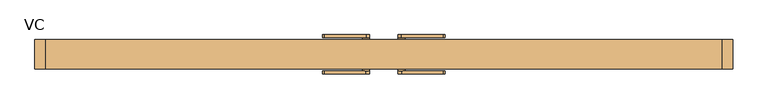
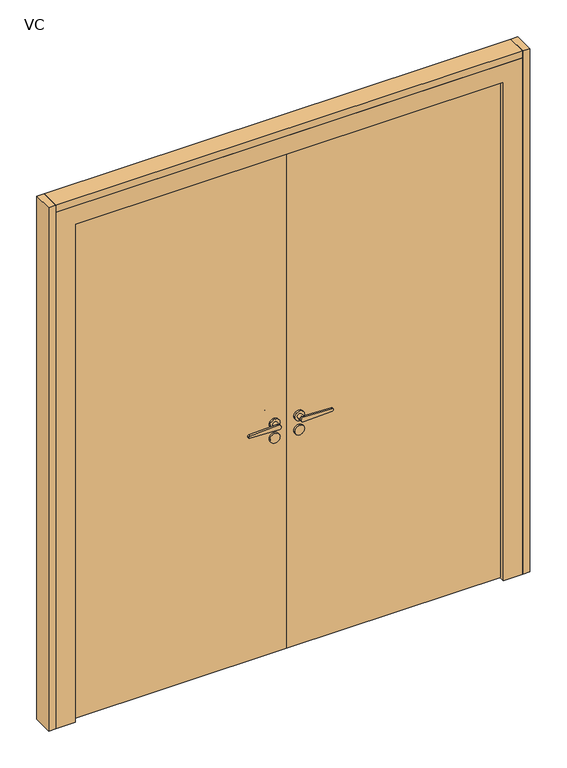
"""IFC4 building model written with IfcOpenShell, lengths in millimetres: door geometry, Mobiliário_Mobiliário de Escritório_Porta Dupla de Giro Cega - VC_Marelli : VC."""

from ifc_helpers import new_model, si_unit, point, frame, frame_2d, origin, origin_with_axes, place, context, project, spatial, polyline, circle_curve, trimmed, segment, composite_curve, outline, extrude, faceted_brep, source, transform, mapped, element, save


def vc_ec550be7(model_context):
    return source(origin(), model_context, "Body", "SolidModel", [
        extrude(outline(polyline([(-0.25, 21.0), (-0.25, -21.0), (-919.5, -21.0), (-919.5, 21.0), (-0.25, 21.0)])), frame((0.0, 0.0, 0.5), z_axis=(0.0, 0.0, 1.0), x_axis=(1.0, 0.0, 0.0)), (0.0, 0.0, 1.0), 2219.0),
        extrude(outline(polyline([(-1000.0, 42.5), (-970.0, 42.5), (-970.0, -42.5), (-1000.0, -42.5), (-1000.0, 42.5)])), origin_with_axes(), (0.0, 0.0, 1.0), 2300.0),
        extrude(outline(polyline([(1000.0, 42.5), (1000.0, -42.5), (970.0, -42.5), (970.0, 42.5), (1000.0, 42.5)])), origin_with_axes(), (0.0, 0.0, 1.0), 2300.0),
        extrude(outline(polyline([(0.25, 21.0), (919.5, 21.0), (919.5, -21.0), (0.25, -21.0), (0.25, 21.0)])), frame((0.0, 0.0, 0.5), z_axis=(0.0, 0.0, 1.0), x_axis=(1.0, 0.0, 0.0)), (0.0, 0.0, 1.0), 2219.0),
        extrude(outline(polyline([(970.0, 42.5), (970.0, -42.5), (-970.0, -42.5), (-970.0, 42.5), (970.0, 42.5)])), frame((0.0, 0.0, 2270.0), z_axis=(0.0, 0.0, 1.0), x_axis=(1.0, 0.0, 0.0)), (0.0, 0.0, 1.0), 30.0),
        faceted_brep([(-970.0, -42.5, 2270.0), (-970.0, -42.5, 0.0), (-890.0, -42.5, 0.0), (-890.0, -42.5, 2190.0), (890.0, -42.5, 2190.0), (890.0, -42.5, 0.0), (970.0, -42.5, 0.0), (970.0, -42.5, 2270.0), (-970.0, 42.5, 2270.0), (-970.0, 42.5, 0.0), (890.0, -21.5, 0.0), (920.0, -21.5, 0.0), (920.0, 42.5, 0.0), (970.0, 42.5, 0.0), (-920.0, 42.5, 0.0), (-920.0, -21.5, 0.0), (-890.0, -21.5, 0.0), (-890.0, -21.5, 2190.0), (890.0, -21.5, 2190.0), (970.0, 42.5, 2270.0), (-920.0, -21.5, 2220.0), (920.0, -21.5, 2220.0), (-920.0, 42.5, 2220.0), (920.0, 42.5, 2220.0)], [[[0, 1, 2, 3, 4, 5, 6, 7]], [[0, 8, 9, 1]], [[6, 5, 10, 11, 12, 13]], [[1, 9, 14, 15, 16, 2]], [[2, 16, 17, 3]], [[10, 5, 4, 18]], [[19, 7, 6, 13]], [[18, 17, 16, 15, 20, 21, 11, 10]], [[20, 15, 14, 22]], [[12, 11, 21, 23]], [[23, 22, 14, 9, 8, 19, 13, 12]], [[4, 3, 17, 18]], [[22, 23, 21, 20]], [[19, 8, 0, 7]]]),
        extrude(outline(composite_curve([segment(trimmed(circle_curve(frame_2d((1010.0, -51.05)), 20.8), [point((1010.0, -71.85))], [point((1010.0, -30.25))], False, "CARTESIAN"), True, "CONTINUOUS"), segment(trimmed(circle_curve(frame_2d((1010.0, -51.05)), 20.8), [point((1010.0, -30.25))], [point((1010.0, -71.85))], False, "CARTESIAN"), True, "CONTINUOUS")], self_intersect=False)), frame((0.0, 21.0, 0.0), z_axis=(0.0, 1.0, 0.0), x_axis=(0.0, 0.0, 1.0)), (0.0, 0.0, 1.0), 8.0),
        extrude(outline(composite_curve([segment(trimmed(circle_curve(frame_2d((947.58, -51.05)), 20.8), [point((947.58, -71.85))], [point((947.58, -30.25))], False, "CARTESIAN"), True, "CONTINUOUS"), segment(trimmed(circle_curve(frame_2d((947.58, -51.05)), 20.8), [point((947.58, -30.25))], [point((947.58, -71.85))], False, "CARTESIAN"), True, "CONTINUOUS")], self_intersect=False)), frame((0.0, 21.0, 0.0), z_axis=(0.0, 1.0, 0.0), x_axis=(0.0, 0.0, 1.0)), (0.0, 0.0, 1.0), 8.0),
        extrude(outline(composite_curve([segment(trimmed(circle_curve(frame_2d((1010.0, -51.05)), 20.8), [point((1010.0, -71.85))], [point((1010.0, -30.25))], False, "CARTESIAN"), True, "CONTINUOUS"), segment(trimmed(circle_curve(frame_2d((1010.0, -51.05)), 20.8), [point((1010.0, -30.25))], [point((1010.0, -71.85))], False, "CARTESIAN"), True, "CONTINUOUS")], self_intersect=False)), frame((0.0, -29.0, 0.0), z_axis=(0.0, 1.0, 0.0), x_axis=(0.0, 0.0, 1.0)), (0.0, 0.0, 1.0), 8.0),
        extrude(outline(composite_curve([segment(trimmed(circle_curve(frame_2d((947.58, -51.05)), 20.8), [point((947.58, -71.85))], [point((947.58, -30.25))], False, "CARTESIAN"), True, "CONTINUOUS"), segment(trimmed(circle_curve(frame_2d((947.58, -51.05)), 20.8), [point((947.58, -30.25))], [point((947.58, -71.85))], False, "CARTESIAN"), True, "CONTINUOUS")], self_intersect=False)), frame((0.0, -29.0, 0.0), z_axis=(0.0, 1.0, 0.0), x_axis=(0.0, 0.0, 1.0)), (0.0, 0.0, 1.0), 8.0),
        extrude(outline(composite_curve([segment(trimmed(circle_curve(frame_2d((1010.0, -51.05)), 10.0), [point((1000.0, -51.05))], [point((1020.0, -51.05))], False, "CARTESIAN"), True, "CONTINUOUS"), segment(polyline([(1020.0, -51.05), (1014.970724, -171.1849324)]), True, "CONTINUOUS"), segment(trimmed(circle_curve(frame_2d((1010.0145906, -171.1849324)), 4.9561334), [point((1014.970724, -171.1849324))], [point((1005.0584573, -171.1849324))], False, "CARTESIAN"), True, "CONTINUOUS"), segment(polyline([(1005.0584573, -171.1849324), (1000.0, -51.05)]), True, "CONTINUOUS")], self_intersect=False)), frame((0.0, 48.0, 0.0), z_axis=(0.0, 1.0, 0.0), x_axis=(0.0, 0.0, 1.0)), (0.0, 0.0, 1.0), 8.0),
        extrude(outline(composite_curve([segment(trimmed(circle_curve(frame_2d((1010.0, -51.05)), 10.0), [point((1010.0, -61.05))], [point((1010.0, -41.05))], False, "CARTESIAN"), True, "CONTINUOUS"), segment(trimmed(circle_curve(frame_2d((1010.0, -51.05)), 10.0), [point((1010.0, -41.05))], [point((1010.0, -61.05))], False, "CARTESIAN"), True, "CONTINUOUS")], self_intersect=False)), frame((0.0, -48.0, 0.0), z_axis=(0.0, 1.0, 0.0), x_axis=(0.0, 0.0, 1.0)), (0.0, 0.0, 1.0), 19.0),
        extrude(outline(composite_curve([segment(trimmed(circle_curve(frame_2d((1010.0, -51.05)), 10.0), [point((1010.0, -61.05))], [point((1010.0, -41.05))], False, "CARTESIAN"), True, "CONTINUOUS"), segment(trimmed(circle_curve(frame_2d((1010.0, -51.05)), 10.0), [point((1010.0, -41.05))], [point((1010.0, -61.05))], False, "CARTESIAN"), True, "CONTINUOUS")], self_intersect=False)), frame((0.0, 29.0, 0.0), z_axis=(0.0, 1.0, 0.0), x_axis=(0.0, 0.0, 1.0)), (0.0, 0.0, 1.0), 19.0),
        extrude(outline(composite_curve([segment(trimmed(circle_curve(frame_2d((1010.0145906, -171.1849324)), 4.9561334), [point((1014.970724, -171.1849324))], [point((1005.0584573, -171.1849324))], False, "CARTESIAN"), True, "CONTINUOUS"), segment(polyline([(1005.0584573, -171.1849324), (1000.0, -51.05)]), True, "CONTINUOUS"), segment(trimmed(circle_curve(frame_2d((1010.0, -51.05)), 10.0), [point((1000.0, -51.05))], [point((1020.0, -51.05))], False, "CARTESIAN"), True, "CONTINUOUS"), segment(polyline([(1020.0, -51.05), (1014.970724, -171.1849324)]), True, "CONTINUOUS")], self_intersect=False)), frame((0.0, -56.0, 0.0), z_axis=(0.0, 1.0, 0.0), x_axis=(0.0, 0.0, 1.0)), (0.0, 0.0, 1.0), 8.0),
        extrude(outline(composite_curve([segment(trimmed(circle_curve(frame_2d((1010.0, 51.05)), 20.8), [point((1010.0, 71.85))], [point((1010.0, 30.25))], False, "CARTESIAN"), True, "CONTINUOUS"), segment(trimmed(circle_curve(frame_2d((1010.0, 51.05)), 20.8), [point((1010.0, 30.25))], [point((1010.0, 71.85))], False, "CARTESIAN"), True, "CONTINUOUS")], self_intersect=False)), frame((0.0, 21.0, 0.0), z_axis=(0.0, 1.0, 0.0), x_axis=(0.0, 0.0, 1.0)), (0.0, 0.0, 1.0), 8.0),
        extrude(outline(composite_curve([segment(trimmed(circle_curve(frame_2d((947.58, 51.05)), 20.8), [point((947.58, 71.85))], [point((947.58, 30.25))], False, "CARTESIAN"), True, "CONTINUOUS"), segment(trimmed(circle_curve(frame_2d((947.58, 51.05)), 20.8), [point((947.58, 30.25))], [point((947.58, 71.85))], False, "CARTESIAN"), True, "CONTINUOUS")], self_intersect=False)), frame((0.0, 21.0, 0.0), z_axis=(0.0, 1.0, 0.0), x_axis=(0.0, 0.0, 1.0)), (0.0, 0.0, 1.0), 8.0),
        extrude(outline(composite_curve([segment(trimmed(circle_curve(frame_2d((1010.0, 51.05)), 20.8), [point((1010.0, 71.85))], [point((1010.0, 30.25))], False, "CARTESIAN"), True, "CONTINUOUS"), segment(trimmed(circle_curve(frame_2d((1010.0, 51.05)), 20.8), [point((1010.0, 30.25))], [point((1010.0, 71.85))], False, "CARTESIAN"), True, "CONTINUOUS")], self_intersect=False)), frame((0.0, -29.0, 0.0), z_axis=(0.0, 1.0, 0.0), x_axis=(0.0, 0.0, 1.0)), (0.0, 0.0, 1.0), 8.0),
        extrude(outline(composite_curve([segment(trimmed(circle_curve(frame_2d((947.58, 51.05)), 20.8), [point((947.58, 71.85))], [point((947.58, 30.25))], False, "CARTESIAN"), True, "CONTINUOUS"), segment(trimmed(circle_curve(frame_2d((947.58, 51.05)), 20.8), [point((947.58, 30.25))], [point((947.58, 71.85))], False, "CARTESIAN"), True, "CONTINUOUS")], self_intersect=False)), frame((0.0, -29.0, 0.0), z_axis=(0.0, 1.0, 0.0), x_axis=(0.0, 0.0, 1.0)), (0.0, 0.0, 1.0), 8.0),
        extrude(outline(composite_curve([segment(polyline([(1000.0, 51.05), (1005.0584573, 171.1849324)]), True, "CONTINUOUS"), segment(trimmed(circle_curve(frame_2d((1010.0145906, 171.1849324)), 4.9561334), [point((1005.0584573, 171.1849324))], [point((1014.970724, 171.1849324))], False, "CARTESIAN"), True, "CONTINUOUS"), segment(polyline([(1014.970724, 171.1849324), (1020.0, 51.05)]), True, "CONTINUOUS"), segment(trimmed(circle_curve(frame_2d((1010.0, 51.05)), 10.0), [point((1020.0, 51.05))], [point((1000.0, 51.05))], False, "CARTESIAN"), True, "CONTINUOUS")], self_intersect=False)), frame((0.0, 48.0, 0.0), z_axis=(0.0, 1.0, 0.0), x_axis=(0.0, 0.0, 1.0)), (0.0, 0.0, 1.0), 8.0),
        extrude(outline(composite_curve([segment(trimmed(circle_curve(frame_2d((1010.0, 51.05)), 10.0), [point((1010.0, 61.05))], [point((1010.0, 41.05))], False, "CARTESIAN"), True, "CONTINUOUS"), segment(trimmed(circle_curve(frame_2d((1010.0, 51.05)), 10.0), [point((1010.0, 41.05))], [point((1010.0, 61.05))], False, "CARTESIAN"), True, "CONTINUOUS")], self_intersect=False)), frame((0.0, -48.0, 0.0), z_axis=(0.0, 1.0, 0.0), x_axis=(0.0, 0.0, 1.0)), (0.0, 0.0, 1.0), 19.0),
        extrude(outline(composite_curve([segment(trimmed(circle_curve(frame_2d((1010.0, 51.05)), 10.0), [point((1010.0, 61.05))], [point((1010.0, 41.05))], False, "CARTESIAN"), True, "CONTINUOUS"), segment(trimmed(circle_curve(frame_2d((1010.0, 51.05)), 10.0), [point((1010.0, 41.05))], [point((1010.0, 61.05))], False, "CARTESIAN"), True, "CONTINUOUS")], self_intersect=False)), frame((0.0, 29.0, 0.0), z_axis=(0.0, 1.0, 0.0), x_axis=(0.0, 0.0, 1.0)), (0.0, 0.0, 1.0), 19.0),
        extrude(outline(composite_curve([segment(polyline([(1014.970724, 171.1849324), (1020.0, 51.05)]), True, "CONTINUOUS"), segment(trimmed(circle_curve(frame_2d((1010.0, 51.05)), 10.0), [point((1020.0, 51.05))], [point((1000.0, 51.05))], False, "CARTESIAN"), True, "CONTINUOUS"), segment(polyline([(1000.0, 51.05), (1005.0584573, 171.1849324)]), True, "CONTINUOUS"), segment(trimmed(circle_curve(frame_2d((1010.0145906, 171.1849324)), 4.9561334), [point((1005.0584573, 171.1849324))], [point((1014.970724, 171.1849324))], False, "CARTESIAN"), True, "CONTINUOUS")], self_intersect=False)), frame((0.0, -56.0, 0.0), z_axis=(0.0, 1.0, 0.0), x_axis=(0.0, 0.0, 1.0)), (0.0, 0.0, 1.0), 8.0),
    ])


if __name__ == "__main__":
    model = new_model("IFC4")
    model_context = context("Model", 3, world=origin())
    ifc_project = project(units=[si_unit("LENGTHUNIT", "METRE", prefix="MILLI")], contexts=[model_context])
    site = spatial("IfcSite", under=ifc_project)
    building = spatial("IfcBuilding", under=site)
    placement = place(None, origin())
    vc_shape = vc_ec550be7(model_context)
    element("IfcDoor", 1, ObjectType="Mobiliário_Mobiliário de Escritório_Porta Dupla de Giro Cega - VC_Marelli : VC", at=placement, inside=building, context=model_context, shape_type="MappedRepresentation", body=[
        mapped(vc_shape, transform((0.0, 0.0, 0.0), x_axis=(1.0, 0.0, 0.0), y_axis=(0.0, 1.0, 0.0), z_axis=(0.0, 0.0, 1.0))),
    ])
    save(model, "model.ifc")
